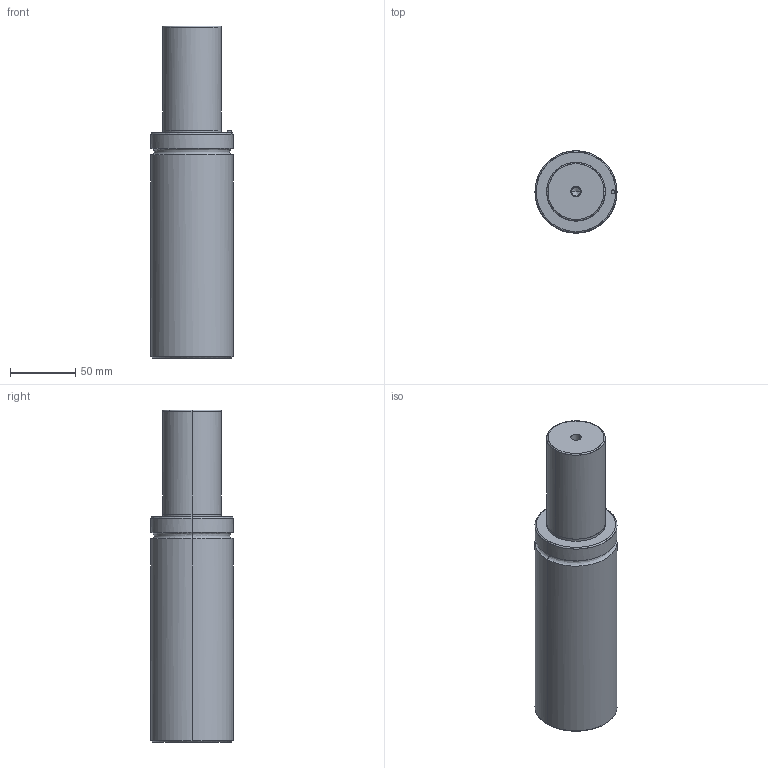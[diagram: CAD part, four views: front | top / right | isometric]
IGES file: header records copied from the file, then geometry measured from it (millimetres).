
Global section: file name: E:\UnigraphicsGraphicData\MISUMI_PRESS-PARTS\IGES\3d_gsm63-80_03899_r00.igs; native system: NX V5.0; preprocessor: UGS NX IGES V5.0; author: MISUMI; date: 20110105.160820; units: millimetre
Bounding box: 63 x 62.99 x 255 mm (x, y, z)
Surface area: 53753.4 mm2 (no closed solid volume)
Topology: 0 solids, 0 shells, 50 faces, 344 edges, 336 vertices
Faces by surface type: bspline 50
